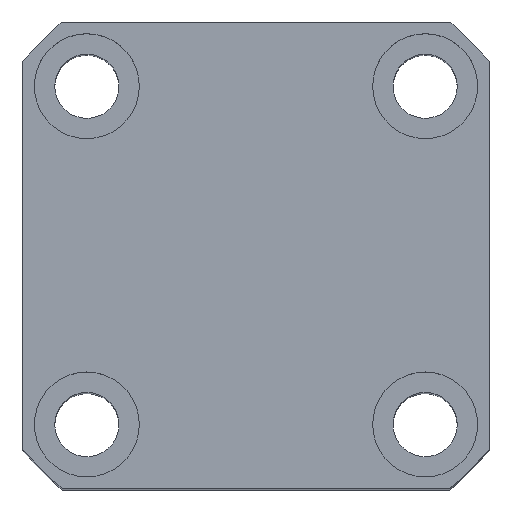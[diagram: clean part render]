
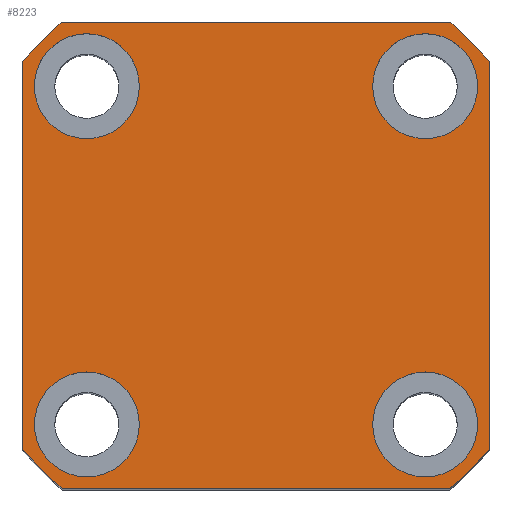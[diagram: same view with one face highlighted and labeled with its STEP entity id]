
A CAD part, top view. The second image highlights one B-rep face of the part: STEP entity #8223.
In plain terms, the highlighted planar face has unit normal (0, 0, 1).
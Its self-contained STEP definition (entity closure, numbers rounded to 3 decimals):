
#10 = CARTESIAN_POINT ( 'NONE',  ( -40., -33.226, 67.5 ) ) ;
#93 = AXIS2_PLACEMENT_3D ( 'NONE', #103, #6804, #5741 ) ;
#103 = CARTESIAN_POINT ( 'NONE',  ( 29., 29., 67.5 ) ) ;
#160 = CARTESIAN_POINT ( 'NONE',  ( 38., -29., 67.5 ) ) ;
#357 = CARTESIAN_POINT ( 'NONE',  ( -29., 29., 67.5 ) ) ;
#398 = DIRECTION ( 'NONE',  ( 1., 0., 0. ) ) ;
#810 = VERTEX_POINT ( 'NONE', #2055 ) ;
#889 = VERTEX_POINT ( 'NONE', #3618 ) ;
#1022 = FACE_BOUND ( 'NONE', #4684, .T. ) ;
#1038 = CARTESIAN_POINT ( 'NONE',  ( 0., 0., 67.5 ) ) ;
#1092 = EDGE_LOOP ( 'NONE', ( #6106, #8452, #3464, #6869, #7827, #8846, #8031, #5435 ) ) ;
#1178 = CARTESIAN_POINT ( 'NONE',  ( -40., 33.226, 67.5 ) ) ;
#1276 = CARTESIAN_POINT ( 'NONE',  ( 0., 0., 67.5 ) ) ;
#1330 = DIRECTION ( 'NONE',  ( 1., 0., 0. ) ) ;
#1385 = PLANE ( 'NONE',  #8079 ) ;
#1460 = CARTESIAN_POINT ( 'NONE',  ( 40., 33.226, 67.5 ) ) ;
#1561 = LINE ( 'NONE', #4729, #6169 ) ;
#1615 = VERTEX_POINT ( 'NONE', #3433 ) ;
#1618 = DIRECTION ( 'NONE',  ( 1., 0., 0. ) ) ;
#1622 = VERTEX_POINT ( 'NONE', #1178 ) ;
#1631 = AXIS2_PLACEMENT_3D ( 'NONE', #7679, #5216, #2659 ) ;
#1834 = EDGE_CURVE ( 'NONE', #6206, #4420, #7957, .T. ) ;
#1846 = AXIS2_PLACEMENT_3D ( 'NONE', #2041, #8726, #2926 ) ;
#1940 = CARTESIAN_POINT ( 'NONE',  ( 0., 0., 67.5 ) ) ;
#1985 = CARTESIAN_POINT ( 'NONE',  ( 40., 33.226, 67.5 ) ) ;
#2041 = CARTESIAN_POINT ( 'NONE',  ( 0., 0., 67.5 ) ) ;
#2055 = CARTESIAN_POINT ( 'NONE',  ( -20., -29., 67.5 ) ) ;
#2141 = DIRECTION ( 'NONE',  ( 0., 0., 1. ) ) ;
#2160 = VERTEX_POINT ( 'NONE', #10616 ) ;
#2177 = CARTESIAN_POINT ( 'NONE',  ( -29., 29., 67.5 ) ) ;
#2347 = EDGE_CURVE ( 'NONE', #4420, #6206, #3157, .T. ) ;
#2451 = AXIS2_PLACEMENT_3D ( 'NONE', #8318, #4186, #1618 ) ;
#2467 = DIRECTION ( 'NONE',  ( 0., 0., 1. ) ) ;
#2612 = AXIS2_PLACEMENT_3D ( 'NONE', #1038, #3479, #9296 ) ;
#2628 = AXIS2_PLACEMENT_3D ( 'NONE', #1940, #6119, #7717 ) ;
#2659 = DIRECTION ( 'NONE',  ( 1., 0., 0. ) ) ;
#2838 = CARTESIAN_POINT ( 'NONE',  ( 29., 29., 67.5 ) ) ;
#2853 = EDGE_CURVE ( 'NONE', #5851, #810, #3672, .T. ) ;
#2926 = DIRECTION ( 'NONE',  ( 1., 0., 0. ) ) ;
#2946 = DIRECTION ( 'NONE',  ( 1., 0., 0. ) ) ;
#3157 = CIRCLE ( 'NONE', #93, 9. ) ;
#3197 = ORIENTED_EDGE ( 'NONE', *, *, #8264, .F. ) ;
#3261 = CARTESIAN_POINT ( 'NONE',  ( 20., 29., 67.5 ) ) ;
#3269 = FACE_BOUND ( 'NONE', #9601, .T. ) ;
#3332 = AXIS2_PLACEMENT_3D ( 'NONE', #2838, #8672, #1330 ) ;
#3433 = CARTESIAN_POINT ( 'NONE',  ( 33.226, 40., 67.5 ) ) ;
#3464 = ORIENTED_EDGE ( 'NONE', *, *, #5486, .T. ) ;
#3479 = DIRECTION ( 'NONE',  ( 0., 0., 1. ) ) ;
#3517 = DIRECTION ( 'NONE',  ( -1., 0., 0. ) ) ;
#3526 = EDGE_CURVE ( 'NONE', #2160, #3895, #4316, .T. ) ;
#3612 = ORIENTED_EDGE ( 'NONE', *, *, #5224, .F. ) ;
#3618 = CARTESIAN_POINT ( 'NONE',  ( 20., -29., 67.5 ) ) ;
#3672 = CIRCLE ( 'NONE', #1631, 9. ) ;
#3883 = VERTEX_POINT ( 'NONE', #8811 ) ;
#3895 = VERTEX_POINT ( 'NONE', #9775 ) ;
#3921 = VERTEX_POINT ( 'NONE', #1460 ) ;
#4028 = ORIENTED_EDGE ( 'NONE', *, *, #10797, .F. ) ;
#4084 = CIRCLE ( 'NONE', #1846, 52. ) ;
#4186 = DIRECTION ( 'NONE',  ( 0., 0., 1. ) ) ;
#4191 = CIRCLE ( 'NONE', #8148, 9. ) ;
#4316 = CIRCLE ( 'NONE', #2612, 52. ) ;
#4420 = VERTEX_POINT ( 'NONE', #5529 ) ;
#4581 = DIRECTION ( 'NONE',  ( 0., 0., 1. ) ) ;
#4642 = CARTESIAN_POINT ( 'NONE',  ( -38., 29., 67.5 ) ) ;
#4684 = EDGE_LOOP ( 'NONE', ( #3612, #5293 ) ) ;
#4720 = FACE_OUTER_BOUND ( 'NONE', #1092, .T. ) ;
#4729 = CARTESIAN_POINT ( 'NONE',  ( -33.226, -40., 67.5 ) ) ;
#4881 = AXIS2_PLACEMENT_3D ( 'NONE', #2177, #2141, #2946 ) ;
#4925 = DIRECTION ( 'NONE',  ( 1., 0., 0. ) ) ;
#4977 = EDGE_CURVE ( 'NONE', #1622, #9466, #10470, .T. ) ;
#5097 = CIRCLE ( 'NONE', #2451, 9. ) ;
#5127 = EDGE_CURVE ( 'NONE', #3921, #1615, #4084, .T. ) ;
#5216 = DIRECTION ( 'NONE',  ( 0., 0., 1. ) ) ;
#5217 = CIRCLE ( 'NONE', #5920, 9. ) ;
#5224 = EDGE_CURVE ( 'NONE', #9068, #5553, #5217, .T. ) ;
#5262 = ORIENTED_EDGE ( 'NONE', *, *, #2347, .F. ) ;
#5293 = ORIENTED_EDGE ( 'NONE', *, *, #7381, .F. ) ;
#5391 = EDGE_CURVE ( 'NONE', #889, #9366, #5589, .T. ) ;
#5435 = ORIENTED_EDGE ( 'NONE', *, *, #9570, .T. ) ;
#5486 = EDGE_CURVE ( 'NONE', #9466, #3883, #7728, .T. ) ;
#5529 = CARTESIAN_POINT ( 'NONE',  ( 38., 29., 67.5 ) ) ;
#5553 = VERTEX_POINT ( 'NONE', #4642 ) ;
#5555 = VERTEX_POINT ( 'NONE', #7766 ) ;
#5589 = CIRCLE ( 'NONE', #9329, 9. ) ;
#5721 = CARTESIAN_POINT ( 'NONE',  ( 29., -29., 67.5 ) ) ;
#5741 = DIRECTION ( 'NONE',  ( 1., 0., 0. ) ) ;
#5851 = VERTEX_POINT ( 'NONE', #10692 ) ;
#5920 = AXIS2_PLACEMENT_3D ( 'NONE', #357, #4581, #398 ) ;
#6106 = ORIENTED_EDGE ( 'NONE', *, *, #8051, .T. ) ;
#6119 = DIRECTION ( 'NONE',  ( 0., 0., 1. ) ) ;
#6169 = VECTOR ( 'NONE', #10521, 1000. ) ;
#6206 = VERTEX_POINT ( 'NONE', #3261 ) ;
#6440 = DIRECTION ( 'NONE',  ( 0., 0., 1. ) ) ;
#6530 = VECTOR ( 'NONE', #3517, 1000. ) ;
#6537 = AXIS2_PLACEMENT_3D ( 'NONE', #10764, #9929, #4925 ) ;
#6652 = EDGE_CURVE ( 'NONE', #3883, #2160, #1561, .T. ) ;
#6804 = DIRECTION ( 'NONE',  ( 0., 0., 1. ) ) ;
#6869 = ORIENTED_EDGE ( 'NONE', *, *, #6652, .T. ) ;
#6875 = CARTESIAN_POINT ( 'NONE',  ( -20., 29., 67.5 ) ) ;
#7188 = LINE ( 'NONE', #1985, #9539 ) ;
#7381 = EDGE_CURVE ( 'NONE', #5553, #9068, #9141, .T. ) ;
#7474 = ORIENTED_EDGE ( 'NONE', *, *, #2853, .F. ) ;
#7679 = CARTESIAN_POINT ( 'NONE',  ( -29., -29., 67.5 ) ) ;
#7717 = DIRECTION ( 'NONE',  ( 1., 0., 0. ) ) ;
#7728 = CIRCLE ( 'NONE', #6537, 52. ) ;
#7766 = CARTESIAN_POINT ( 'NONE',  ( -33.226, 40., 67.5 ) ) ;
#7827 = ORIENTED_EDGE ( 'NONE', *, *, #3526, .T. ) ;
#7844 = CIRCLE ( 'NONE', #2628, 52. ) ;
#7926 = DIRECTION ( 'NONE',  ( 0., -1., 0. ) ) ;
#7957 = CIRCLE ( 'NONE', #3332, 9. ) ;
#7975 = CARTESIAN_POINT ( 'NONE',  ( -29., -29., 67.5 ) ) ;
#7989 = FACE_BOUND ( 'NONE', #10512, .T. ) ;
#8031 = ORIENTED_EDGE ( 'NONE', *, *, #5127, .T. ) ;
#8045 = DIRECTION ( 'NONE',  ( 1., 0., 0. ) ) ;
#8051 = EDGE_CURVE ( 'NONE', #5555, #1622, #7844, .T. ) ;
#8079 = AXIS2_PLACEMENT_3D ( 'NONE', #1276, #6440, #8216 ) ;
#8148 = AXIS2_PLACEMENT_3D ( 'NONE', #7975, #10448, #8045 ) ;
#8216 = DIRECTION ( 'NONE',  ( 1., 0., 0. ) ) ;
#8223 = ADVANCED_FACE ( 'NONE', ( #10192, #7989, #1022, #3269, #4720 ), #1385, .T. ) ;
#8264 = EDGE_CURVE ( 'NONE', #9366, #889, #5097, .T. ) ;
#8318 = CARTESIAN_POINT ( 'NONE',  ( 29., -29., 67.5 ) ) ;
#8452 = ORIENTED_EDGE ( 'NONE', *, *, #4977, .T. ) ;
#8672 = DIRECTION ( 'NONE',  ( 0., 0., 1. ) ) ;
#8710 = DIRECTION ( 'NONE',  ( 0., 1., 0. ) ) ;
#8726 = DIRECTION ( 'NONE',  ( 0., 0., 1. ) ) ;
#8753 = LINE ( 'NONE', #10151, #6530 ) ;
#8811 = CARTESIAN_POINT ( 'NONE',  ( -33.226, -40., 67.5 ) ) ;
#8846 = ORIENTED_EDGE ( 'NONE', *, *, #9861, .T. ) ;
#9068 = VERTEX_POINT ( 'NONE', #6875 ) ;
#9141 = CIRCLE ( 'NONE', #4881, 9. ) ;
#9151 = DIRECTION ( 'NONE',  ( 1., 0., 0. ) ) ;
#9202 = ORIENTED_EDGE ( 'NONE', *, *, #5391, .F. ) ;
#9296 = DIRECTION ( 'NONE',  ( 1., 0., 0. ) ) ;
#9329 = AXIS2_PLACEMENT_3D ( 'NONE', #5721, #2467, #9151 ) ;
#9366 = VERTEX_POINT ( 'NONE', #160 ) ;
#9466 = VERTEX_POINT ( 'NONE', #10 ) ;
#9539 = VECTOR ( 'NONE', #8710, 1000. ) ;
#9570 = EDGE_CURVE ( 'NONE', #1615, #5555, #8753, .T. ) ;
#9601 = EDGE_LOOP ( 'NONE', ( #5262, #9765 ) ) ;
#9684 = VECTOR ( 'NONE', #7926, 1000. ) ;
#9765 = ORIENTED_EDGE ( 'NONE', *, *, #1834, .F. ) ;
#9775 = CARTESIAN_POINT ( 'NONE',  ( 40., -33.226, 67.5 ) ) ;
#9861 = EDGE_CURVE ( 'NONE', #3895, #3921, #7188, .T. ) ;
#9874 = EDGE_LOOP ( 'NONE', ( #3197, #9202 ) ) ;
#9929 = DIRECTION ( 'NONE',  ( 0., 0., 1. ) ) ;
#10151 = CARTESIAN_POINT ( 'NONE',  ( -33.226, 40., 67.5 ) ) ;
#10192 = FACE_BOUND ( 'NONE', #9874, .T. ) ;
#10448 = DIRECTION ( 'NONE',  ( 0., 0., 1. ) ) ;
#10470 = LINE ( 'NONE', #10552, #9684 ) ;
#10512 = EDGE_LOOP ( 'NONE', ( #4028, #7474 ) ) ;
#10521 = DIRECTION ( 'NONE',  ( 1., 0., 0. ) ) ;
#10552 = CARTESIAN_POINT ( 'NONE',  ( -40., 33.226, 67.5 ) ) ;
#10616 = CARTESIAN_POINT ( 'NONE',  ( 33.226, -40., 67.5 ) ) ;
#10692 = CARTESIAN_POINT ( 'NONE',  ( -38., -29., 67.5 ) ) ;
#10764 = CARTESIAN_POINT ( 'NONE',  ( 0., 0., 67.5 ) ) ;
#10797 = EDGE_CURVE ( 'NONE', #810, #5851, #4191, .T. ) ;
